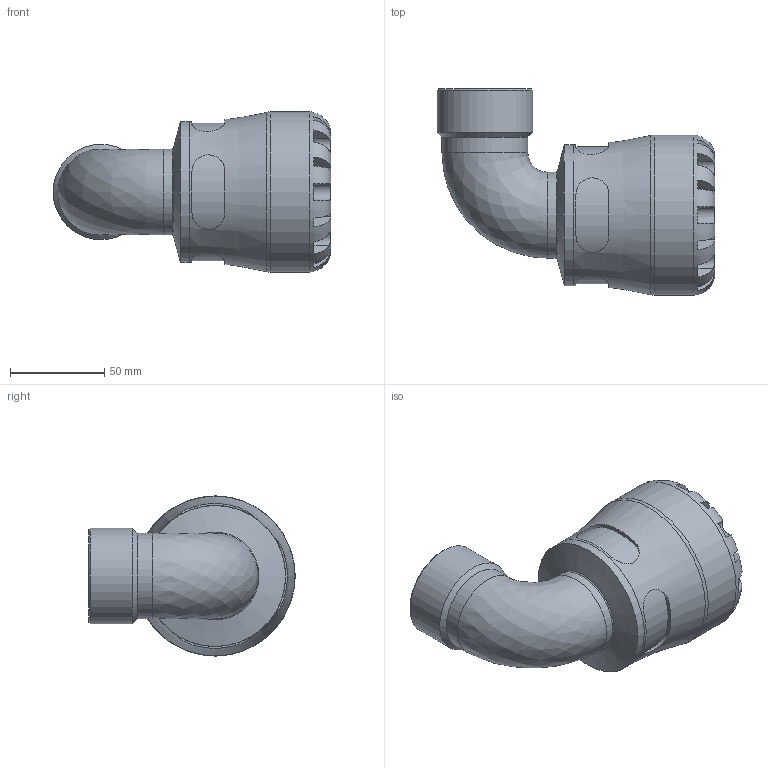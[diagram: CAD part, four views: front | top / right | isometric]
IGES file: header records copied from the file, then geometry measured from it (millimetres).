
Global section: file name: 107600050013_197600050013.ipt; native system: Autodesk Inventor 2015; preprocessor: unknown; author: KIM; date: 20170518.120404; units: millimetre
Bounding box: 147.32 x 109.5 x 85 mm (x, y, z)
Volume: 310146.2 mm3; surface area: 67187.8 mm2
Topology: 1 solids, 1 shells, 108 faces, 277 edges, 176 vertices
Faces by surface type: plane 60, revolution 28, cylinder 17, cone 3
Full cylindrical faces by diameter (mm): 45.574 x2, 50.638 x1, 74.8 x1, 85 x1
